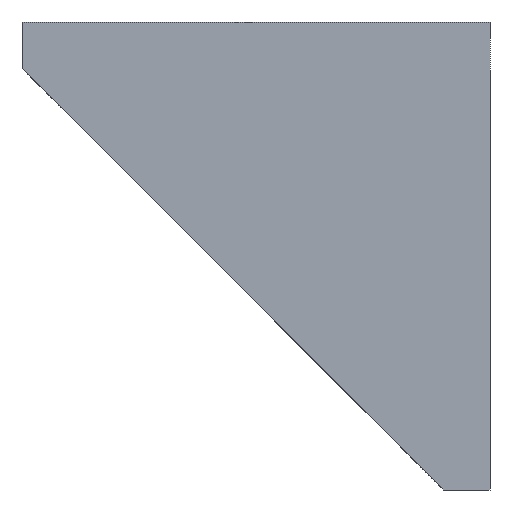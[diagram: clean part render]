
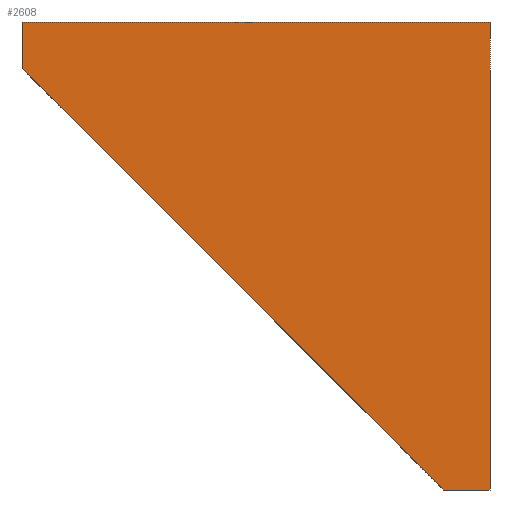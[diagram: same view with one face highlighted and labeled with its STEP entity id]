
A CAD part, left-side view. The second image highlights one B-rep face of the part: STEP entity #2608.
In plain terms, the highlighted planar face has unit normal (-1, 0, 0).
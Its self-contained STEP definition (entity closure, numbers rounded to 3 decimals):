
#3 = EDGE_CURVE ( 'NONE', #700, #2783, #920, .T. ) ;
#179 = VECTOR ( 'NONE', #2576, 1000. ) ;
#198 = VECTOR ( 'NONE', #1496, 1000. ) ;
#271 = ORIENTED_EDGE ( 'NONE', *, *, #3594, .F. ) ;
#337 = CARTESIAN_POINT ( 'NONE',  ( -18.17, 23.125, 7.5 ) ) ;
#480 = VERTEX_POINT ( 'NONE', #2091 ) ;
#549 = LINE ( 'NONE', #2950, #2067 ) ;
#566 = ORIENTED_EDGE ( 'NONE', *, *, #1724, .T. ) ;
#700 = VERTEX_POINT ( 'NONE', #2712 ) ;
#834 = CARTESIAN_POINT ( 'NONE',  ( -18.17, -52.875, 7.5 ) ) ;
#881 = CARTESIAN_POINT ( 'NONE',  ( -18.17, 23.125, 7.5 ) ) ;
#902 = FACE_OUTER_BOUND ( 'NONE', #1391, .T. ) ;
#920 = LINE ( 'NONE', #2222, #179 ) ;
#1013 = EDGE_CURVE ( 'NONE', #2830, #2783, #549, .T. ) ;
#1074 = CARTESIAN_POINT ( 'NONE',  ( -18.17, -45.375, -68.5 ) ) ;
#1391 = EDGE_LOOP ( 'NONE', ( #566, #1847, #3387, #271, #1987 ) ) ;
#1410 = CARTESIAN_POINT ( 'NONE',  ( -18.17, -52.875, 7.5 ) ) ;
#1496 = DIRECTION ( 'NONE',  ( 0., 0., -1. ) ) ;
#1540 = DIRECTION ( 'NONE',  ( 0., -0.707, -0.707 ) ) ;
#1724 = EDGE_CURVE ( 'NONE', #480, #2830, #1969, .T. ) ;
#1730 = DIRECTION ( 'NONE',  ( 1., 0., 0. ) ) ;
#1740 = EDGE_CURVE ( 'NONE', #480, #2724, #2536, .T. ) ;
#1743 = PLANE ( 'NONE',  #3601 ) ;
#1847 = ORIENTED_EDGE ( 'NONE', *, *, #1013, .T. ) ;
#1881 = VECTOR ( 'NONE', #2563, 1000. ) ;
#1969 = LINE ( 'NONE', #2276, #1881 ) ;
#1987 = ORIENTED_EDGE ( 'NONE', *, *, #1740, .F. ) ;
#2067 = VECTOR ( 'NONE', #1540, 1000. ) ;
#2091 = CARTESIAN_POINT ( 'NONE',  ( -18.17, 23.125, 7.5 ) ) ;
#2222 = CARTESIAN_POINT ( 'NONE',  ( -18.17, -52.875, -68.5 ) ) ;
#2276 = CARTESIAN_POINT ( 'NONE',  ( -18.17, 23.125, 7.5 ) ) ;
#2346 = LINE ( 'NONE', #1410, #198 ) ;
#2536 = LINE ( 'NONE', #881, #3286 ) ;
#2563 = DIRECTION ( 'NONE',  ( 0., 0., -1. ) ) ;
#2576 = DIRECTION ( 'NONE',  ( 0., 1., 0. ) ) ;
#2608 = ADVANCED_FACE ( 'NONE', ( #902 ), #1743, .F. ) ;
#2712 = CARTESIAN_POINT ( 'NONE',  ( -18.17, -52.875, -68.5 ) ) ;
#2724 = VERTEX_POINT ( 'NONE', #834 ) ;
#2783 = VERTEX_POINT ( 'NONE', #1074 ) ;
#2830 = VERTEX_POINT ( 'NONE', #3034 ) ;
#2859 = DIRECTION ( 'NONE',  ( 0., -1., 0. ) ) ;
#2950 = CARTESIAN_POINT ( 'NONE',  ( -18.17, 23.125, 0. ) ) ;
#3034 = CARTESIAN_POINT ( 'NONE',  ( -18.17, 23.125, 0. ) ) ;
#3286 = VECTOR ( 'NONE', #2859, 1000. ) ;
#3387 = ORIENTED_EDGE ( 'NONE', *, *, #3, .F. ) ;
#3417 = DIRECTION ( 'NONE',  ( 0., 1., 0. ) ) ;
#3594 = EDGE_CURVE ( 'NONE', #2724, #700, #2346, .T. ) ;
#3601 = AXIS2_PLACEMENT_3D ( 'NONE', #337, #1730, #3417 ) ;
